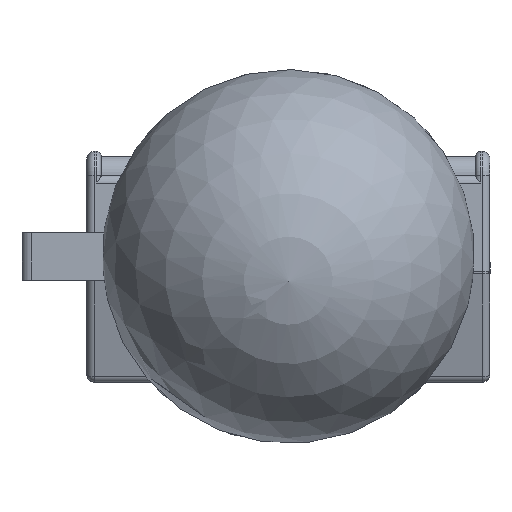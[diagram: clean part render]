
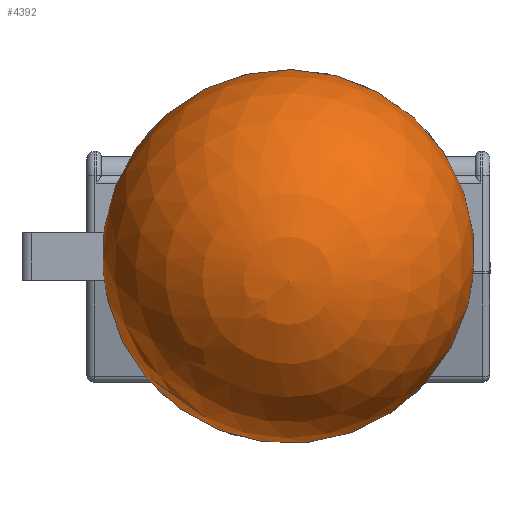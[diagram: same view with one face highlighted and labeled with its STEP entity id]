
A CAD part, left-side view. The second image highlights one B-rep face of the part: STEP entity #4392.
In plain terms, the highlighted spherical face has radius 157.25 mm.
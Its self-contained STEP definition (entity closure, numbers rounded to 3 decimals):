
#1420 = DIRECTION ( 'NONE',  ( 0., -1., 0. ) ) ;
#1421 = DIRECTION ( 'NONE',  ( -1., 0., 0. ) ) ;
#1422 = CARTESIAN_POINT ( 'NONE',  ( -37.97, 88.243, 157.5 ) ) ;
#1423 = AXIS2_PLACEMENT_3D ( 'NONE', #1422, #1421, #1420 ) ;
#1424 = CIRCLE ( 'NONE', #1423, 25. ) ;
#1460 = CARTESIAN_POINT ( 'NONE',  ( -37.97, 63.243, 157.5 ) ) ;
#1466 = CARTESIAN_POINT ( 'NONE',  ( -37.97, 113.243, 157.5 ) ) ;
#2095 = DIRECTION ( 'NONE',  ( 0., -1., 0. ) ) ;
#2096 = DIRECTION ( 'NONE',  ( -1., 0., 0. ) ) ;
#2097 = CARTESIAN_POINT ( 'NONE',  ( -37.97, 88.243, 157.5 ) ) ;
#2098 = AXIS2_PLACEMENT_3D ( 'NONE', #2097, #2096, #2095 ) ;
#2103 = CIRCLE ( 'NONE', #2098, 25. ) ;
#4392 = ADVANCED_FACE ( 'NONE', ( #7130 ), #7127, .T. ) ;
#7120 = DIRECTION ( 'NONE',  ( 0.087, 0.644, 0.76 ) ) ;
#7121 = DIRECTION ( 'NONE',  ( 0.991, -0.134, 0. ) ) ;
#7124 = AXIS2_PLACEMENT_3D ( 'NONE', #7126, #7121, #7120 ) ;
#7126 = CARTESIAN_POINT ( 'NONE',  ( -193.22, 88.243, 157.5 ) ) ;
#7127 = SPHERICAL_SURFACE ( 'NONE', #7124, 157.25 ) ;
#7130 = FACE_OUTER_BOUND ( 'NONE', #15245, .T. ) ;
#14969 = EDGE_CURVE ( 'NONE', #14971, #14975, #1424, .T. ) ;
#14971 = VERTEX_POINT ( 'NONE', #1466 ) ;
#14975 = VERTEX_POINT ( 'NONE', #1460 ) ;
#15245 = EDGE_LOOP ( 'NONE', ( #15528, #15440 ) ) ;
#15313 = EDGE_CURVE ( 'NONE', #14975, #14971, #2103, .T. ) ;
#15440 = ORIENTED_EDGE ( 'NONE', *, *, #14969, .T. ) ;
#15528 = ORIENTED_EDGE ( 'NONE', *, *, #15313, .T. ) ;
